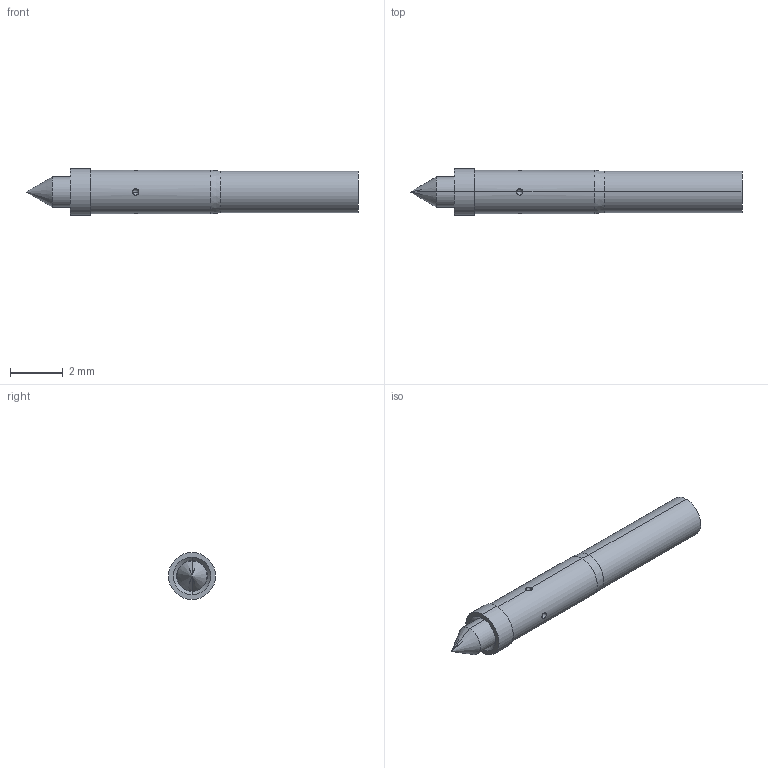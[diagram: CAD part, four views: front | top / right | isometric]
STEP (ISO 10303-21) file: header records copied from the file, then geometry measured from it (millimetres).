
FILE_DESCRIPTION (( 'STEP AP214' ), '1' );
FILE_NAME ('PD4BS.STEP', '2021-07-13T15:32:42', ( '' ), ( '' ), 'SwSTEP 2.0', 'SolidWorks 2021', '' );
FILE_SCHEMA (( 'AUTOMOTIVE_DESIGN' ));
Length unit declared in the file: millimetre
Products named in the file (5): 1789-3; 2165-1_-Gdimpled; 6460_-0474-G; 1792D-0; PD4BS
Assembly tree (4 placements, depth 2):
  PD4BS
    1789-3
    2165-1_-Gdimpled
    6460_-0474-G
    1792D-0
Bounding box: 12.6 x 1.78 x 1.78 mm (x, y, z)
Volume: 15 mm3; surface area: 129.8 mm2
Topology: 4 solids, 4 shells, 66 faces, 156 edges, 78 vertices
Faces by surface type: bspline 22, cone 18, cylinder 16, plane 10
Entity records: 4828 total; most frequent: CARTESIAN_POINT 3408, ORIENTED_EDGE 264, DIRECTION 244, EDGE_CURVE 132, AXIS2_PLACEMENT_3D 103, VERTEX_POINT 78, EDGE_LOOP 72, FACE_OUTER_BOUND 66
